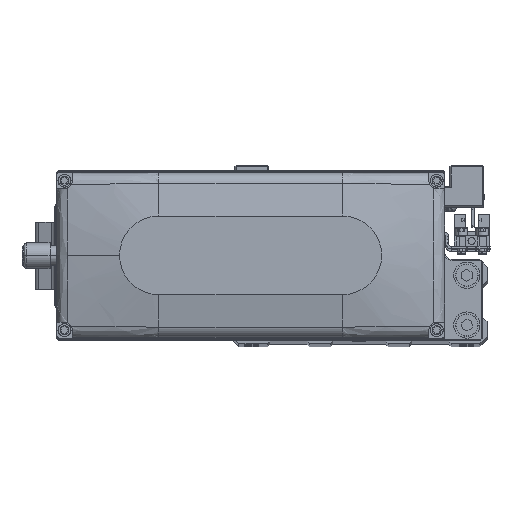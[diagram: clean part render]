
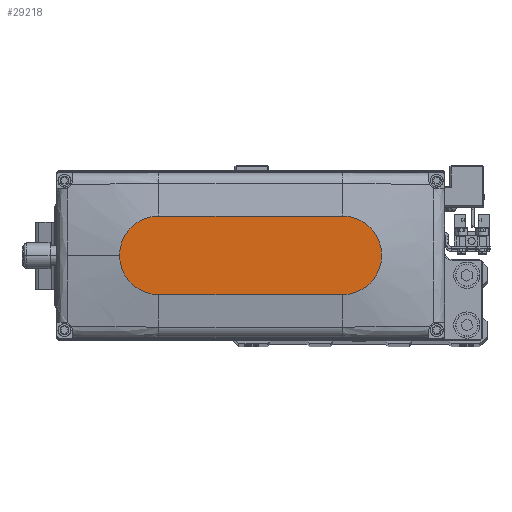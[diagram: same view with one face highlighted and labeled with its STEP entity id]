
A CAD part, top view. The second image highlights one B-rep face of the part: STEP entity #29218.
In plain terms, the highlighted planar face has unit normal (0, 0, 1).
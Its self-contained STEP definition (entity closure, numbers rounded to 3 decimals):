
#1186 = VECTOR ( 'NONE', #15374, 1000. ) ;
#1738 = AXIS2_PLACEMENT_3D ( 'NONE', #20306, #33306, #4084 ) ;
#1839 = CARTESIAN_POINT ( 'NONE',  ( -35., -15., 35. ) ) ;
#2368 = CARTESIAN_POINT ( 'NONE',  ( -35., 15., 35. ) ) ;
#3771 = CIRCLE ( 'NONE', #27602, 15. ) ;
#4084 = DIRECTION ( 'NONE',  ( 1., 0., 0. ) ) ;
#4467 = DIRECTION ( 'NONE',  ( 0., 0., 1. ) ) ;
#6203 = CIRCLE ( 'NONE', #30046, 15. ) ;
#7285 = PLANE ( 'NONE',  #1738 ) ;
#7608 = DIRECTION ( 'NONE',  ( 0., 0., 1. ) ) ;
#8178 = EDGE_CURVE ( 'NONE', #21391, #39725, #31576, .T. ) ;
#8373 = VERTEX_POINT ( 'NONE', #17060 ) ;
#10558 = DIRECTION ( 'NONE',  ( 0., 0., 1. ) ) ;
#11208 = AXIS2_PLACEMENT_3D ( 'NONE', #39744, #10558, #23580 ) ;
#14864 = DIRECTION ( 'NONE',  ( 1., 0., 0. ) ) ;
#15374 = DIRECTION ( 'NONE',  ( -1., 0., 0. ) ) ;
#15589 = EDGE_CURVE ( 'NONE', #8373, #21391, #29602, .T. ) ;
#16994 = ORIENTED_EDGE ( 'NONE', *, *, #8178, .T. ) ;
#17060 = CARTESIAN_POINT ( 'NONE',  ( 50., 0., 35. ) ) ;
#17223 = ORIENTED_EDGE ( 'NONE', *, *, #15589, .T. ) ;
#17475 = DIRECTION ( 'NONE',  ( 1., 0., 0. ) ) ;
#17975 = CARTESIAN_POINT ( 'NONE',  ( -35., -15., 35. ) ) ;
#19044 = EDGE_CURVE ( 'NONE', #33973, #8373, #6203, .T. ) ;
#20306 = CARTESIAN_POINT ( 'NONE',  ( 0., 0., 35. ) ) ;
#20620 = DIRECTION ( 'NONE',  ( 1., 0., 0. ) ) ;
#20933 = VECTOR ( 'NONE', #14864, 1000. ) ;
#21391 = VERTEX_POINT ( 'NONE', #38668 ) ;
#23341 = EDGE_CURVE ( 'NONE', #39725, #27685, #3771, .T. ) ;
#23580 = DIRECTION ( 'NONE',  ( 1., 0., 0. ) ) ;
#25544 = EDGE_CURVE ( 'NONE', #27685, #33973, #31075, .T. ) ;
#26638 = EDGE_LOOP ( 'NONE', ( #16994, #29352, #41938, #39613, #17223 ) ) ;
#27602 = AXIS2_PLACEMENT_3D ( 'NONE', #36809, #7608, #20620 ) ;
#27685 = VERTEX_POINT ( 'NONE', #17975 ) ;
#29218 = ADVANCED_FACE ( 'NONE', ( #36491 ), #7285, .T. ) ;
#29352 = ORIENTED_EDGE ( 'NONE', *, *, #23341, .T. ) ;
#29602 = CIRCLE ( 'NONE', #11208, 15. ) ;
#30046 = AXIS2_PLACEMENT_3D ( 'NONE', #33679, #4467, #17475 ) ;
#31075 = LINE ( 'NONE', #1839, #20933 ) ;
#31576 = LINE ( 'NONE', #2368, #1186 ) ;
#33000 = CARTESIAN_POINT ( 'NONE',  ( -35., 15., 35. ) ) ;
#33306 = DIRECTION ( 'NONE',  ( 0., 0., 1. ) ) ;
#33679 = CARTESIAN_POINT ( 'NONE',  ( 35., 0., 35. ) ) ;
#33973 = VERTEX_POINT ( 'NONE', #39314 ) ;
#36491 = FACE_OUTER_BOUND ( 'NONE', #26638, .T. ) ;
#36809 = CARTESIAN_POINT ( 'NONE',  ( -35., 0., 35. ) ) ;
#38668 = CARTESIAN_POINT ( 'NONE',  ( 35., 15., 35. ) ) ;
#39314 = CARTESIAN_POINT ( 'NONE',  ( 35., -15., 35. ) ) ;
#39613 = ORIENTED_EDGE ( 'NONE', *, *, #19044, .T. ) ;
#39725 = VERTEX_POINT ( 'NONE', #33000 ) ;
#39744 = CARTESIAN_POINT ( 'NONE',  ( 35., 0., 35. ) ) ;
#41938 = ORIENTED_EDGE ( 'NONE', *, *, #25544, .T. ) ;
